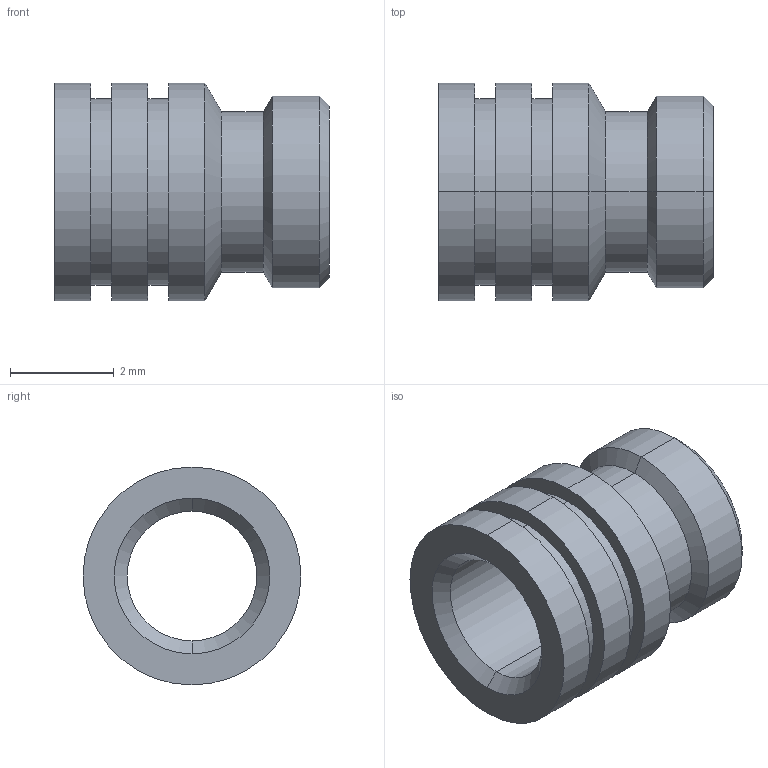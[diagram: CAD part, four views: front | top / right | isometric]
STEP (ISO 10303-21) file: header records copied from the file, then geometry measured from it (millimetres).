
FILE_DESCRIPTION (( 'STEP AP203' ), '1' );
FILE_NAME ('FSUK-MU-M03-S.STEP', '2021-04-15T13:13:38', ( '' ), ( '' ), 'SwSTEP 2.0', 'SolidWorks 2021', '' );
FILE_SCHEMA (( 'CONFIG_CONTROL_DESIGN' ));
Length unit declared in the file: millimetre
Products named in the file (1): FSUK-MU-M03-S
Bounding box: 5.3 x 4.2 x 4.2 mm (x, y, z)
Volume: 33.3 mm3; surface area: 136 mm2
Topology: 1 solids, 1 shells, 32 faces, 64 edges, 38 vertices
Faces by surface type: cylinder 16, cone 10, plane 6
Entity records: 915 total; most frequent: DIRECTION 168, CARTESIAN_POINT 135, ORIENTED_EDGE 128, AXIS2_PLACEMENT_3D 71, EDGE_CURVE 64, VERTEX_POINT 38, EDGE_LOOP 38, CIRCLE 38
